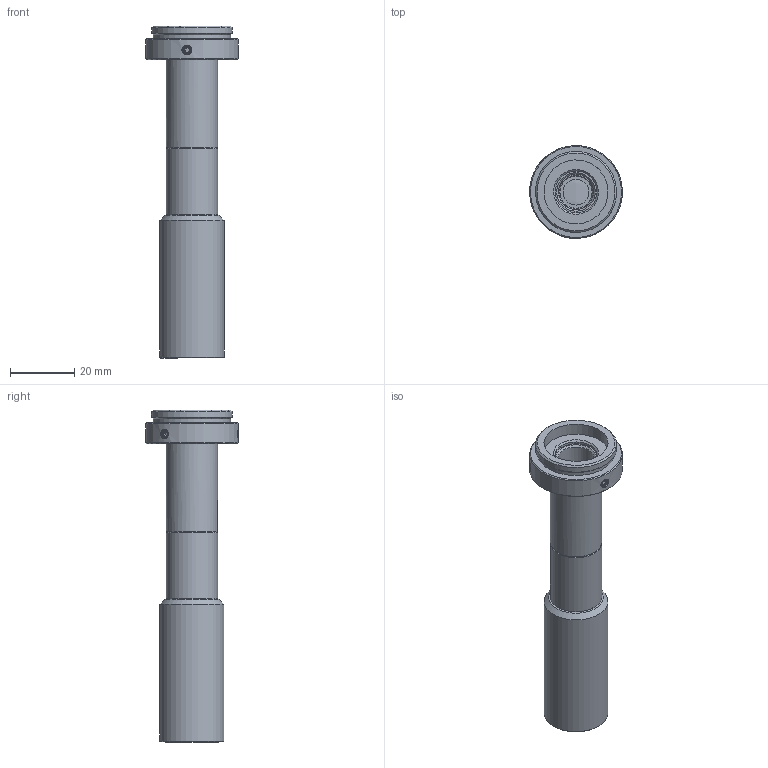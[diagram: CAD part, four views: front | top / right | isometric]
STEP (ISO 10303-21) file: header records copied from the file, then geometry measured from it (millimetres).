
FILE_DESCRIPTION(('STEP AP214'),'1');
FILE_NAME('RTK-1-110.stp','2026-03-17T01:48:36',(' '),(' '),'Spatial InterOp 3D',' ',' ');
FILE_SCHEMA(('AUTOMOTIVE_DESIGN { 1 0 10303 214 1 1 1 1 }'));
Length unit declared in the file: metre
Products named in the file (2): RTK-1-110; Component1
Assembly tree (1 placements, depth 2):
  RTK-1-110
    Component1
Bounding box: 28.94 x 28.97 x 103.63 mm (x, y, z)
Volume: 15233.1 mm3; surface area: 13216.1 mm2
Topology: 1 solids, 6 shells, 161 faces, 360 edges, 237 vertices
Faces by surface type: plane 60, cone 56, cylinder 38, sphere 4, bspline 3
Full cylindrical faces by diameter (mm): 2.5 x6, 8 x1, 10 x2, 11 x1, 12 x1, 12.7 x1, 13 x2, 13.4 x2, 13.7 x1, 14 x2, 14.2 x2, 15 x1, 15.5 x2, 16 x4, 16.5 x1, 17.4 x1, 18.2 x1, 20 x2, 24.12 x1, 25.32 x1, 29 x1
Entity records: 6918 total; most frequent: CARTESIAN_POINT 1163, DIRECTION 666, ORIENTED_EDGE 506, STYLED_ITEM 415, PRESENTATION_STYLE_ASSIGNMENT 415, COLOUR_RGB 415, AXIS2_PLACEMENT_3D 289, EDGE_LOOP 274
